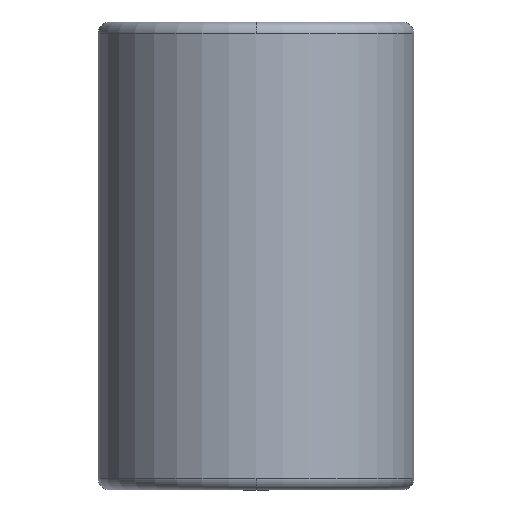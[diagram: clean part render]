
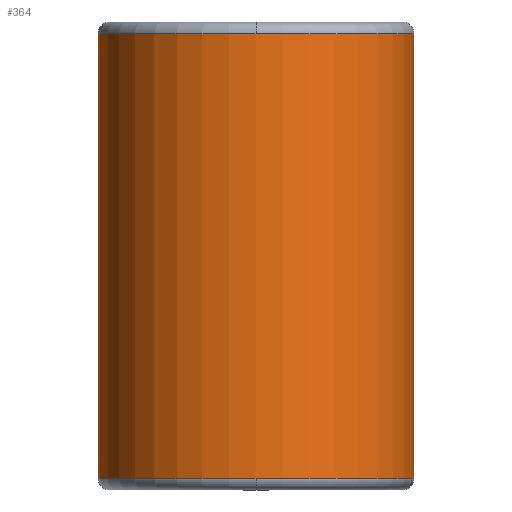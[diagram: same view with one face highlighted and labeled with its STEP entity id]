
A CAD part, front view. The second image highlights one B-rep face of the part: STEP entity #364.
In plain terms, the highlighted cylindrical face has radius 26.993 mm (diameter 53.986 mm), a partial arc.
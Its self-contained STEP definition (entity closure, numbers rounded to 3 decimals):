
#269=CARTESIAN_POINT('',(0.0,-26.993,78.0));
#270=VERTEX_POINT('',#269);
#296=CARTESIAN_POINT('',(-26.993,0.,78.0));
#297=VERTEX_POINT('',#296);
#305=CARTESIAN_POINT('',(0.0,0.,78.0));
#306=DIRECTION('',(0.0,0.0,1.0));
#307=DIRECTION('',(1.0,0.0,0.0));
#308=AXIS2_PLACEMENT_3D('',#305,#306,#307);
#309=CIRCLE('',#308,26.993);
#310=EDGE_CURVE('',#297,#270,#309,.T.);
#315=CARTESIAN_POINT('',(0.0,0.,40.0));
#316=DIRECTION('',(0.0,0.,1.0));
#317=DIRECTION('',(1.0,0.0,0.0));
#318=AXIS2_PLACEMENT_3D('',#315,#316,#317);
#319=CYLINDRICAL_SURFACE('',#318,26.993);
#320=CARTESIAN_POINT('',(26.993,0.,78.0));
#321=VERTEX_POINT('',#320);
#322=CARTESIAN_POINT('',(26.993,0.,2.));
#323=VERTEX_POINT('',#322);
#324=CARTESIAN_POINT('',(26.993,0.,78.0));
#325=DIRECTION('',(0.0,0.0,-1.0));
#326=VECTOR('',#325,76.0);
#327=LINE('',#324,#326);
#328=EDGE_CURVE('',#321,#323,#327,.T.);
#329=ORIENTED_EDGE('',*,*,#328,.F.);
#330=CARTESIAN_POINT('',(0.0,0.,78.0));
#331=DIRECTION('',(0.0,0.0,1.0));
#332=DIRECTION('',(1.0,0.0,0.0));
#333=AXIS2_PLACEMENT_3D('',#330,#331,#332);
#334=CIRCLE('',#333,26.993);
#335=EDGE_CURVE('',#270,#321,#334,.T.);
#336=ORIENTED_EDGE('',*,*,#335,.F.);
#337=ORIENTED_EDGE('',*,*,#310,.F.);
#338=CARTESIAN_POINT('',(-26.993,0.,2.0));
#339=VERTEX_POINT('',#338);
#340=CARTESIAN_POINT('',(-26.993,0.,78.0));
#341=DIRECTION('',(0.0,0.0,-1.0));
#342=VECTOR('',#341,76.0);
#343=LINE('',#340,#342);
#344=EDGE_CURVE('',#297,#339,#343,.T.);
#345=ORIENTED_EDGE('',*,*,#344,.T.);
#346=CARTESIAN_POINT('',(0.0,-26.993,2.));
#347=VERTEX_POINT('',#346);
#348=CARTESIAN_POINT('',(0.0,0.,2.0));
#349=DIRECTION('',(0.0,0.0,1.0));
#350=DIRECTION('',(1.0,0.0,0.0));
#351=AXIS2_PLACEMENT_3D('',#348,#349,#350);
#352=CIRCLE('',#351,26.993);
#353=EDGE_CURVE('',#339,#347,#352,.T.);
#354=ORIENTED_EDGE('',*,*,#353,.T.);
#355=CARTESIAN_POINT('',(0.0,0.,2.0));
#356=DIRECTION('',(0.0,0.0,1.0));
#357=DIRECTION('',(1.0,0.0,0.0));
#358=AXIS2_PLACEMENT_3D('',#355,#356,#357);
#359=CIRCLE('',#358,26.993);
#360=EDGE_CURVE('',#347,#323,#359,.T.);
#361=ORIENTED_EDGE('',*,*,#360,.T.);
#362=EDGE_LOOP('',(#329,#336,#337,#345,#354,#361));
#363=FACE_OUTER_BOUND('',#362,.T.);
#364=ADVANCED_FACE('',(#363),#319,.T.);
